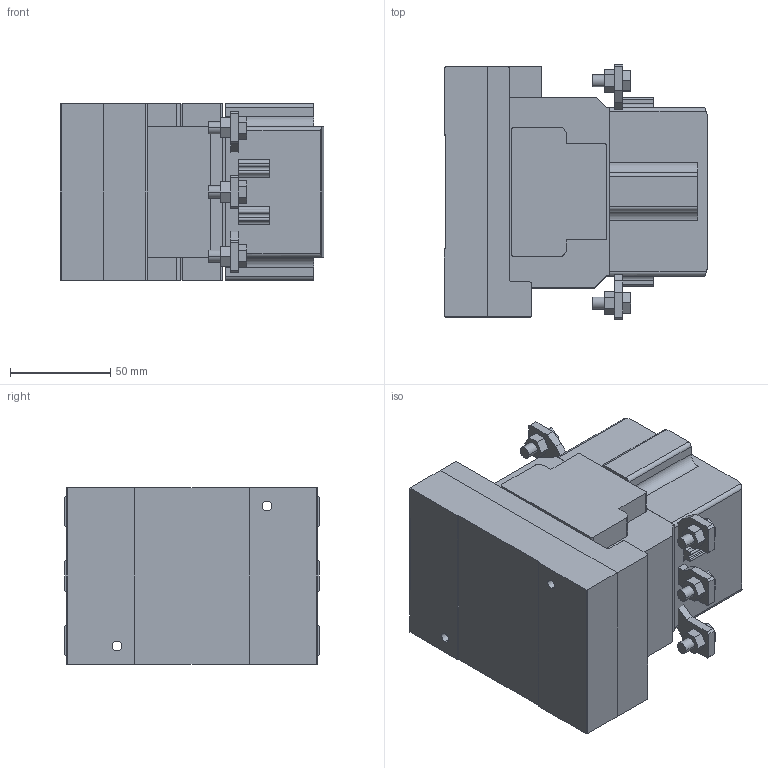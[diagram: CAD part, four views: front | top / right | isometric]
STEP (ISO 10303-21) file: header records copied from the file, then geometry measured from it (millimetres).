
FILE_DESCRIPTION( ( '' ), '1' );
FILE_NAME( 'E:/D&C電子外形図_3D/step/distribution/new_sc_neo_sc/mag/SC-N4_SE.stp', '2013-03-28T04:32:15', ( '' ), ( '' ), ' ', ' ', ' ' );
FILE_SCHEMA( ( 'automotive_design' ) );
Length unit declared in the file: millimetre
Products named in the file (21): 1; 2; 3; 4; 5; 6; 7; 8; 9; 10; 11; 12; 13; 14; 15; 16; 17; 18; 19; 20; 21
Bounding box: 131.7 x 127 x 88 mm (x, y, z)
Volume: 1038706.9 mm3; surface area: 123122.7 mm2
Topology: 21 solids, 21 shells, 385 faces, 986 edges, 656 vertices
Faces by surface type: plane 281, cylinder 104
Entity records: 23478 total; most frequent: CARTESIAN_POINT 2076, STYLED_ITEM 2048, PRESENTATION_STYLE_ASSIGNMENT 2048, COLOUR_RGB 2048, DIRECTION 1998, ORIENTED_EDGE 1972, EDGE_CURVE 986, CURVE_STYLE 986
